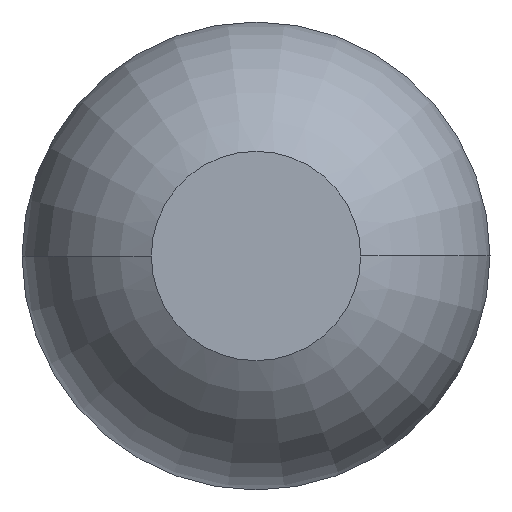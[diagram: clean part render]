
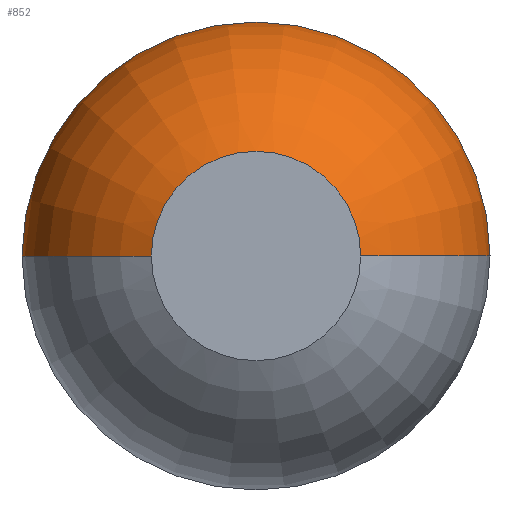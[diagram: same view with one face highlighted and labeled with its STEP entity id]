
A CAD part, left-side view. The second image highlights one B-rep face of the part: STEP entity #852.
In plain terms, the highlighted toroidal (fillet/blend) face has major radius 0.003 mm and minor radius 0.508 mm.
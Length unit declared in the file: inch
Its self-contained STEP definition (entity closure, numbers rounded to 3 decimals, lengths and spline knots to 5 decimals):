
#5 = CARTESIAN_POINT ( 'NONE',  ( 0.01792, -0.00013, 0. ) ) ;
#14 = EDGE_LOOP ( 'NONE', ( #710, #665, #169, #292 ) ) ;
#30 = CARTESIAN_POINT ( 'NONE',  ( 0.01792, 0., 0. ) ) ;
#55 = CARTESIAN_POINT ( 'NONE',  ( 0.01792, 0.00013, 0. ) ) ;
#74 = DIRECTION ( 'NONE',  ( 1., 0., 0. ) ) ;
#120 = EDGE_CURVE ( 'NONE', #832, #562, #282, .T. ) ;
#169 = ORIENTED_EDGE ( 'NONE', *, *, #120, .F. ) ;
#225 = AXIS2_PLACEMENT_3D ( 'NONE', #5, #611, #698 ) ;
#267 = AXIS2_PLACEMENT_3D ( 'NONE', #817, #281, #555 ) ;
#280 = CIRCLE ( 'NONE', #449, 0.02 ) ;
#281 = DIRECTION ( 'NONE',  ( 1., 0., 0. ) ) ;
#282 = CIRCLE ( 'NONE', #607, 0.02013 ) ;
#287 = CARTESIAN_POINT ( 'NONE',  ( 0.01792, 0., 0. ) ) ;
#292 = ORIENTED_EDGE ( 'NONE', *, *, #748, .F. ) ;
#305 = CARTESIAN_POINT ( 'NONE',  ( 0.01792, -0.02013, 0. ) ) ;
#323 = CIRCLE ( 'NONE', #225, 0.02 ) ;
#333 = DIRECTION ( 'NONE',  ( -1., 0., 0. ) ) ;
#364 = VERTEX_POINT ( 'NONE', #874 ) ;
#449 = AXIS2_PLACEMENT_3D ( 'NONE', #55, #468, #333 ) ;
#468 = DIRECTION ( 'NONE',  ( 0., 0., -1. ) ) ;
#473 = CARTESIAN_POINT ( 'NONE',  ( 0.01792, 0.02013, 0. ) ) ;
#489 = DIRECTION ( 'NONE',  ( 0., 1., 0. ) ) ;
#503 = TOROIDAL_SURFACE ( 'NONE', #741, 0.00013, 0.02 ) ;
#555 = DIRECTION ( 'NONE',  ( 0., 1., 0. ) ) ;
#562 = VERTEX_POINT ( 'NONE', #305 ) ;
#607 = AXIS2_PLACEMENT_3D ( 'NONE', #287, #74, #616 ) ;
#611 = DIRECTION ( 'NONE',  ( 0., 0., 1. ) ) ;
#616 = DIRECTION ( 'NONE',  ( 0., 1., 0. ) ) ;
#632 = DIRECTION ( 'NONE',  ( 1., 0., 0. ) ) ;
#651 = CIRCLE ( 'NONE', #267, 0.009 ) ;
#665 = ORIENTED_EDGE ( 'NONE', *, *, #760, .T. ) ;
#675 = CARTESIAN_POINT ( 'NONE',  ( 0., -0.009, 0. ) ) ;
#698 = DIRECTION ( 'NONE',  ( 0., -1., 0. ) ) ;
#710 = ORIENTED_EDGE ( 'NONE', *, *, #826, .T. ) ;
#741 = AXIS2_PLACEMENT_3D ( 'NONE', #30, #632, #489 ) ;
#748 = EDGE_CURVE ( 'NONE', #364, #832, #280, .T. ) ;
#760 = EDGE_CURVE ( 'NONE', #779, #562, #323, .T. ) ;
#767 = FACE_OUTER_BOUND ( 'NONE', #14, .T. ) ;
#779 = VERTEX_POINT ( 'NONE', #675 ) ;
#817 = CARTESIAN_POINT ( 'NONE',  ( 0., 0., 0. ) ) ;
#826 = EDGE_CURVE ( 'NONE', #364, #779, #651, .T. ) ;
#832 = VERTEX_POINT ( 'NONE', #473 ) ;
#852 = ADVANCED_FACE ( 'NONE', ( #767 ), #503, .T. ) ;
#874 = CARTESIAN_POINT ( 'NONE',  ( 0., 0.009, 0. ) ) ;
